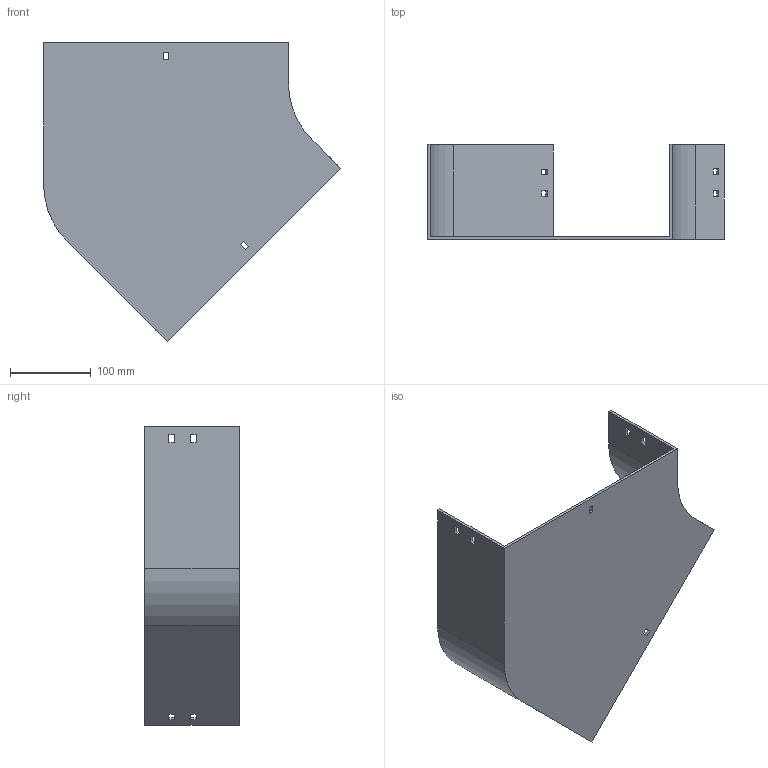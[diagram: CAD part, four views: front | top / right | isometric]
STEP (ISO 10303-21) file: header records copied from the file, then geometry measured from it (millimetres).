
FILE_DESCRIPTION (( 'STEP AP214' ), '1' );
FILE_NAME ('11B1J300.step', '2025-02-21T09:37:09', ( '' ), ( '' ), 'SwSTEP 2.0', 'SolidWorks 2023', '' );
FILE_SCHEMA (( 'AUTOMOTIVE_DESIGN' ));
Length unit declared in the file: millimetre
Products named in the file (1): 11B1J300
Bounding box: 368.64 x 117.5 x 371.03 mm (x, y, z)
Volume: 569114.7 mm3; surface area: 332232.6 mm2
Topology: 1 solids, 1 shells, 58 faces, 168 edges, 112 vertices
Faces by surface type: plane 54, cylinder 4
Entity records: 1943 total; most frequent: CARTESIAN_POINT 339, ORIENTED_EDGE 336, DIRECTION 294, EDGE_CURVE 168, LINE 160, VECTOR 160, VERTEX_POINT 112, EDGE_LOOP 78
